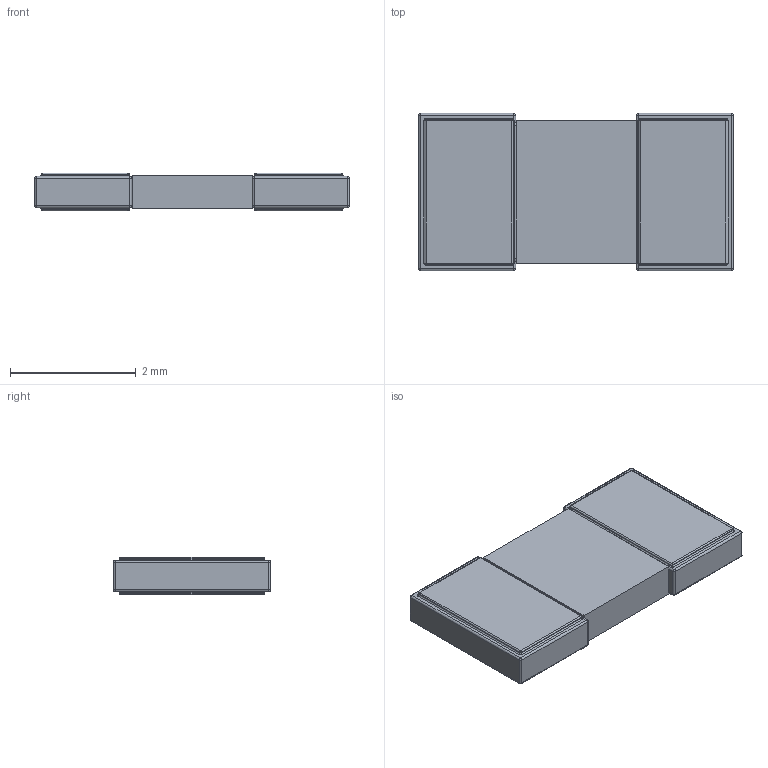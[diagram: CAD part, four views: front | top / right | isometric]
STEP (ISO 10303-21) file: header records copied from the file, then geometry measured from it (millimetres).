
FILE_DESCRIPTION(('STEP AP203'), '1');
FILE_NAME('櫻蠉錪', '', ('UNSPECIFIED'), ('UNSPECIFIED'), 'ASCON STEP Converter 1.6', 'ASCON Math Kernel', '');
FILE_SCHEMA(('CONFIG_CONTROL_DESIGN'));
Length unit declared in the file: millimetre
Bounding box: 5 x 2.5 x 0.6 mm (x, y, z)
Volume: 6.8 mm3; surface area: 37.2 mm2
Topology: 1 solids, 1 shells, 209 faces, 490 edges, 244 vertices
Faces by surface type: cylinder 84, plane 53, sphere 32, torus 24, bspline 16
Entity records: 8596 total; most frequent: CARTESIAN_POINT 2312, DIRECTION 1030, ORIENTED_EDGE 916, EDGE_CURVE 458, AXIS2_PLACEMENT_3D 410, VERTEX_POINT 244, CIRCLE 216, COLOUR_RGB 210
